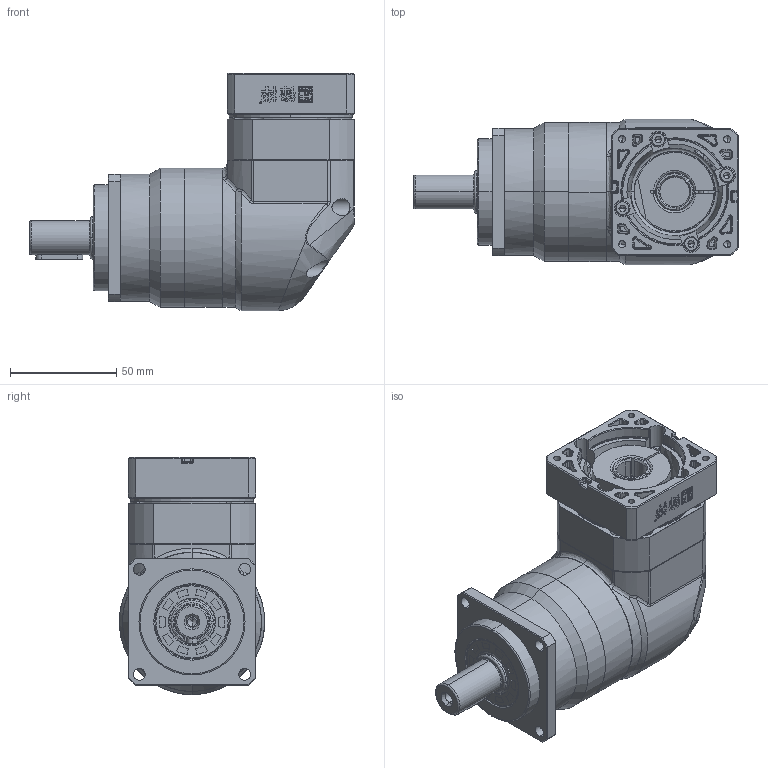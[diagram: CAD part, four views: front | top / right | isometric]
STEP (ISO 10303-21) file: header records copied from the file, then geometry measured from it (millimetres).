
FILE_DESCRIPTION (( 'STEP AP214' ), '1' );
FILE_NAME ('EVB060-L1-S2-P2 14-50-70-M4.STEP', '2021-04-24T03:02:32', ( 'User' ), ( 'china' ), 'SwSTEP 2.0', 'SolidWorks 2016', '' );
FILE_SCHEMA (( 'AUTOMOTIVE_DESIGN' ));
Length unit declared in the file: millimetre
Products named in the file (13): 2-输入端壳体EVB060D.; 9-怀堤傷褲极EVB064D; 坶踡遠18-37-12(1); 11-输入法兰EVB060D-50-70-M4; 珨撰眻褒眊极EVB064D-5.27; EVB060-L1-S2-P2 14-50-70-M4; A倰す瑩5-22; 蚐猾20355; EVB060D怀堤俴陎殤1; EVB060D齿圈; hex socket set screws with cone point gb_GB_FASTENER_SCREWS_HSCP M10X10-N; hexagon socket head cap screws gb_GB_FASTENER_SCREWS_HSHCS M4X16-N; 输入太阳齿轮060D-14
Assembly tree (16 placements, depth 2):
  EVB060-L1-S2-P2 14-50-70-M4
    珨撰眻褒眊极EVB064D-5.27
    11-输入法兰EVB060D-50-70-M4
    坶踡遠18-37-12(1)
    9-怀堤傷褲极EVB064D
    2-输入端壳体EVB060D.
    输入太阳齿轮060D-14
    hexagon socket head cap screws gb_GB_FASTENER_SCREWS_HSHCS M4X16-N  x5
    hex socket set screws with cone point gb_GB_FASTENER_SCREWS_HSCP M10X10-N
    EVB060D齿圈
    EVB060D怀堤俴陎殤1
    蚐猾20355
    A倰す瑩5-22
Bounding box: 153 x 68.5 x 111.75 mm (x, y, z)
Volume: 516846.9 mm3; surface area: 103934.5 mm2
Topology: 17 solids, 17 shells, 1429 faces, 3580 edges, 2217 vertices
Faces by surface type: plane 548, cylinder 340, bspline 203, cone 192, torus 146
Entity records: 65958 total; most frequent: CARTESIAN_POINT 20154, ORIENTED_EDGE 6604, DIRECTION 5989, EDGE_CURVE 3302, AXIS2_PLACEMENT_3D 2198, VERTEX_POINT 2085, LINE 1593, VECTOR 1593
